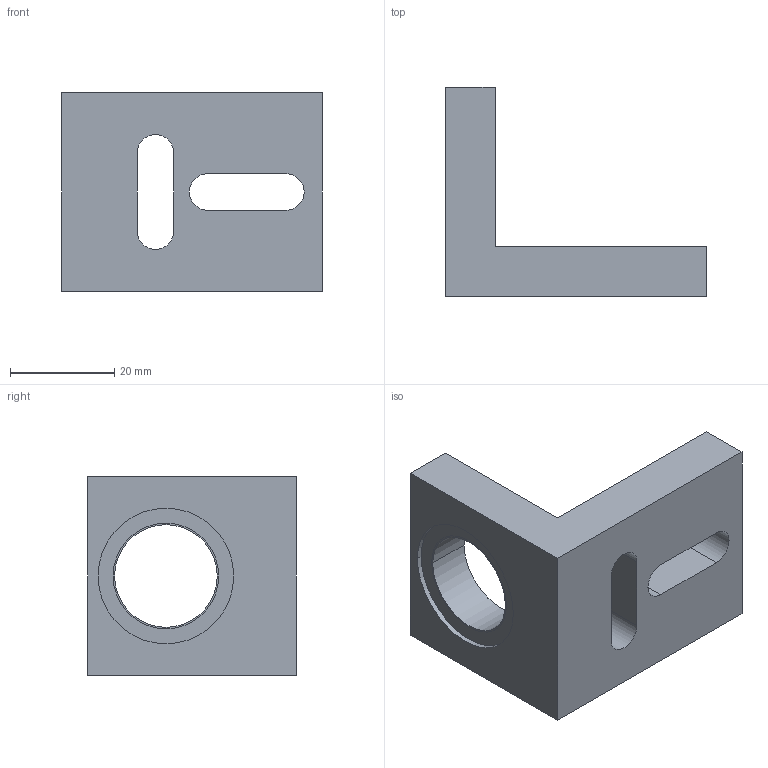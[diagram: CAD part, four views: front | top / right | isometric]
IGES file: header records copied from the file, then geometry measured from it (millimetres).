
Start section:  PTC IGES file: EMA01.igs
Global section: file name: EMA01.igs; native system: Pro/ENGINEER by Parametric Technology Corporation; preprocessor: 2006460; author: user; organization: Unknown; date: 20130704.102444; units: millimetre
Bounding box: 50 x 40 x 38 mm (x, y, z)
Surface area: 9322.9 mm2 (no closed solid volume)
Topology: 0 solids, 0 shells, 23 faces, 116 edges, 116 vertices
Faces by surface type: bspline 13, revolution 10
